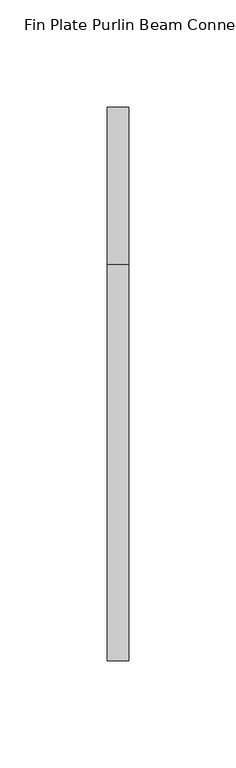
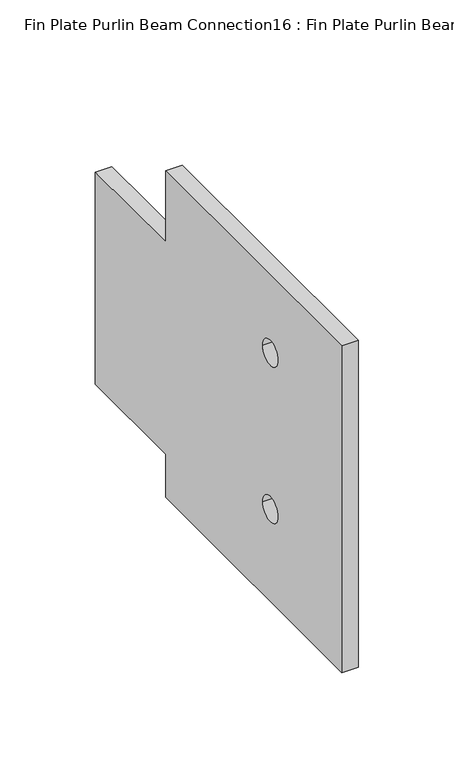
"""IFC4 building model written with IfcOpenShell, lengths in millimetres: proxy geometry, Fin Plate Purlin Beam Connection16 : Fin Plate Purlin Beam Connection."""

from ifc_helpers import new_model, si_unit, point, frame, frame_2d, origin, place, context, project, spatial, polyline, circle_curve, trimmed, segment, composite_curve, outline, extrude, source, transform, mapped, element, save


def fin_plate_purlin_beam_connection16_fin_plate_purlin_beam_bf154655(model_context):
    return source(origin(), model_context, "Body", "SweptSolid", [
        extrude(outline(polyline([(11048.2549517, 2454.7182916), (10974.6549517, 2454.7182916), (10974.6549517, 2427.0006295), (10790.0549517, 2427.0006295), (10790.0549517, 2635.9566779), (10974.6549517, 2635.9566779), (10974.6549517, 2590.5), (11048.2549517, 2590.5), (11048.2549517, 2454.7182916)]), holes=[composite_curve([segment(trimmed(circle_curve(frame_2d((10865.0549517, 2585.9566779)), 8.0), [point((10873.0549517, 2585.9566779))], [point((10857.0549517, 2585.9566779))], True, "CARTESIAN"), True, "CONTINUOUS"), segment(trimmed(circle_curve(frame_2d((10865.0549517, 2585.9566779)), 8.0), [point((10857.0549517, 2585.9566779))], [point((10873.0549517, 2585.9566779))], True, "CARTESIAN"), True, "CONTINUOUS")], self_intersect=False), composite_curve([segment(trimmed(circle_curve(frame_2d((10865.0549517, 2485.9566779)), 8.0), [point((10873.0549517, 2485.9566779))], [point((10857.0549517, 2485.9566779))], True, "CARTESIAN"), True, "CONTINUOUS"), segment(trimmed(circle_curve(frame_2d((10865.0549517, 2485.9566779)), 8.0), [point((10857.0549517, 2485.9566779))], [point((10873.0549517, 2485.9566779))], True, "CARTESIAN"), True, "CONTINUOUS")], self_intersect=False)]), frame((-29366.0036256, 0.0, 0.0), z_axis=(1.0, 0.0, 0.0), x_axis=(0.0, 1.0, 0.0)), (0.0, 0.0, 1.0), 10.0),
    ])


if __name__ == "__main__":
    model = new_model("IFC4")
    model_context = context("Model", 3, world=origin())
    ifc_project = project(units=[si_unit("LENGTHUNIT", "METRE", prefix="MILLI")], contexts=[model_context])
    site = spatial("IfcSite", under=ifc_project)
    building = spatial("IfcBuilding", under=site)
    placement = place(None, origin())
    fin_plate_purlin_beam_connection16_fin_plate_purlin_beam_shape = fin_plate_purlin_beam_connection16_fin_plate_purlin_beam_bf154655(model_context)
    element("IfcBuildingElementProxy", 1, Name="Fin Plate Purlin Beam Connection16 : Fin Plate Purlin Beam Connection", ObjectType="Fin Plate Purlin Beam Connection16 : Fin Plate Purlin Beam Connection", at=placement, inside=building, context=model_context, shape_type="MappedRepresentation", body=[
        mapped(fin_plate_purlin_beam_connection16_fin_plate_purlin_beam_shape, transform((0.0, 0.0, 0.0), x_axis=(1.0, 0.0, 0.0), y_axis=(0.0, 1.0, 0.0), z_axis=(0.0, 0.0, 1.0))),
    ])
    save(model, "model.ifc")
